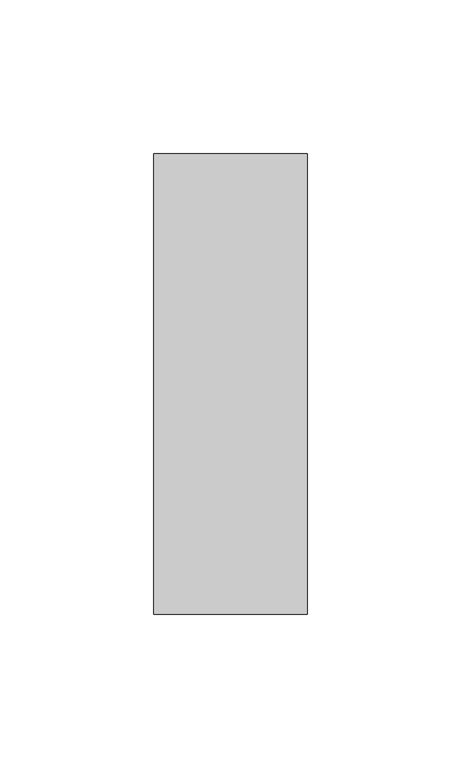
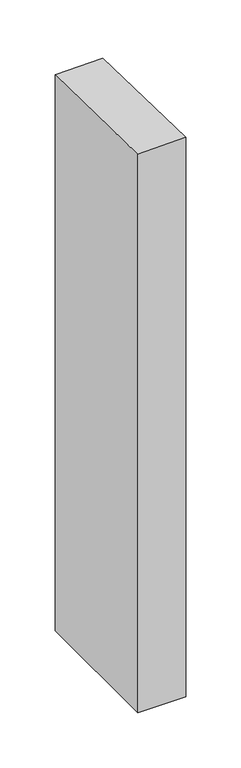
"""IFC4 building model written with IfcOpenShell, lengths in millimetres: member geometry, Прямоугольный импост : 50 x 150 мм."""

import ifcopenshell
import ifcopenshell.guid

model = None  # the IFC model being written
_history = None  # IfcOwnerHistory: only IFC2X3 demands one
_inside = {}  # id of a spatial element -> (the spatial element, [elements in it])
_under = {}  # id of a project, library or spatial element -> (it, [spatial elements below it])
_declared = {}  # id of a project -> (the project, [libraries it declares])
_typed = {}  # id of a type object -> (the type object, [elements of that type])
_made_of = {}  # id of a material, layer set ... -> (it, [elements and type objects made of it])


def new_model(schema):
    """Start an empty IFC model of exactly this schema.

    Asked for "IFC4X3", IfcOpenShell would pick the latest addendum, in which some entities
    have other attributes; the version numbers below select the first issue.
    IFC2X3 requires an IfcOwnerHistory on every rooted entity: one is made here for all.
    """
    global model, _history
    if schema == "IFC4X3":
        model = ifcopenshell.file(schema_version=(4, 3, 0, 0))
    else:
        model = ifcopenshell.file(schema=schema)
    _inside.clear()
    _under.clear()
    _declared.clear()
    _typed.clear()
    _made_of.clear()
    _history = None
    if model.schema == "IFC2X3":
        org = make("IfcOrganization", Name="unknown")
        user = make(
            "IfcPersonAndOrganization",
            ThePerson=make("IfcPerson", FamilyName="unknown"),
            TheOrganization=org,
        )
        app = make(
            "IfcApplication",
            ApplicationDeveloper=org,
            Version="unknown",
            ApplicationFullName="unknown",
            ApplicationIdentifier="unknown",
        )
        _history = make(
            "IfcOwnerHistory",
            OwningUser=user,
            OwningApplication=app,
            ChangeAction="ADDED",
            CreationDate=0,
        )
    return model


def make(cls, **values):
    """One entity of the class cls with the attributes given. An attribute that is None is left unset."""
    return model.create_entity(
        cls, **{name: value for name, value in values.items() if value is not None}
    )


def rooted(cls, **values):
    """An entity with a GlobalId (a new one), such as an element, a storey or a relation."""
    return make(cls, GlobalId=ifcopenshell.guid.new(), OwnerHistory=_history, **values)


def si_unit(unit_type, name, prefix=None):
    """IfcSIUnit, for example si_unit("LENGTHUNIT", "METRE", prefix="MILLI")."""
    return make("IfcSIUnit", UnitType=unit_type, Prefix=prefix, Name=name)


def assignment(units):
    """IfcUnitAssignment: the units of a project."""
    return None if units is None else make("IfcUnitAssignment", Units=units)


def point(xyz):
    """IfcCartesianPoint."""
    return None if xyz is None else make("IfcCartesianPoint", Coordinates=xyz)


def direction(xyz):
    """IfcDirection."""
    return None if xyz is None else make("IfcDirection", DirectionRatios=xyz)


def frame(location, z_axis=None, x_axis=None):
    """IfcAxis2Placement3D, a coordinate frame: its origin and axes. An axis left out is left unset."""
    return make(
        "IfcAxis2Placement3D",
        Location=point(location),
        Axis=direction(z_axis),
        RefDirection=direction(x_axis),
    )


def origin():
    """The frame at (0, 0, 0) with its axes left unset."""
    return frame((0.0, 0.0, 0.0))


def place(relative_to, where):
    """IfcLocalPlacement: puts the frame where relative to a parent placement (None: the world)."""
    return make(
        "IfcLocalPlacement", PlacementRelTo=relative_to, RelativePlacement=where
    )


def context(
    kind, dimensions, precision=None, world=None, true_north=None, identifier=None
):
    """IfcGeometricRepresentationContext, for example the 3D "Model" context."""
    return make(
        "IfcGeometricRepresentationContext",
        ContextIdentifier=identifier,
        ContextType=kind,
        CoordinateSpaceDimension=dimensions,
        Precision=precision,
        WorldCoordinateSystem=world,
        TrueNorth=true_north,
    )


def project(units=None, contexts=None):
    """IfcProject with its units and contexts."""
    return rooted(
        "IfcProject",
        Name="project",
        RepresentationContexts=contexts,
        UnitsInContext=assignment(units),
    )


def spatial(cls, under=None, at=None, **own):
    """A site, building, storey or space (cls), placed at a placement, below another one or the project."""
    s = rooted(cls, ObjectPlacement=at, **own)
    if under is not None:
        _under.setdefault(under.id(), (under, []))[1].append(s)
    return s


def faces_of(points, faces, orient=None, outer=None):
    """IfcFace entities. A face is a list of loops; a loop is a list of indices into points, from 0.

    orient and outer hold one flag for each loop. By default every Orientation is true, the
    first loop of a face is its IfcFaceOuterBound and the others are IfcFaceBound.
    """
    made = []
    for i, loops in enumerate(faces):
        bounds = []
        for j, loop in enumerate(loops):
            is_outer = j == 0 if outer is None else outer[i][j]
            bounds.append(
                make(
                    "IfcFaceOuterBound" if is_outer else "IfcFaceBound",
                    Bound=make("IfcPolyLoop", Polygon=[points[k] for k in loop]),
                    Orientation=True if orient is None else orient[i][j],
                )
            )
        made.append(make("IfcFace", Bounds=bounds))
    return made


def faceted_brep(points, faces, orient=None, outer=None, voids=None):
    """IfcFacetedBrep: a solid bounded by flat faces; with voids (closed shells), ...WithVoids."""
    shared = [point(p) for p in points]
    hull = make("IfcClosedShell", CfsFaces=faces_of(shared, faces, orient, outer))
    if voids is None:
        return make("IfcFacetedBrep", Outer=hull)
    return make(
        "IfcFacetedBrepWithVoids",
        Outer=hull,
        Voids=[
            make(cls, CfsFaces=faces_of(shared, fs, o, b)) for cls, fs, o, b in voids
        ],
    )


def shape(context_of_items, identifier, shape_type, items):
    """IfcShapeRepresentation: the items that make up one representation, for example the "Body"."""
    return make(
        "IfcShapeRepresentation",
        ContextOfItems=context_of_items,
        RepresentationIdentifier=identifier,
        RepresentationType=shape_type,
        Items=items,
    )


def source(mapping_origin, context_of_items, identifier, shape_type, items):
    """IfcRepresentationMap: a shape defined once, which mapped items show again and again."""
    return make(
        "IfcRepresentationMap",
        MappingOrigin=mapping_origin,
        MappedRepresentation=shape(context_of_items, identifier, shape_type, items),
    )


def transform(
    local_origin,
    x_axis=None,
    y_axis=None,
    z_axis=None,
    scale=None,
    scale2=None,
    scale3=None,
    uniform=True,
):
    """IfcCartesianTransformationOperator3D, or its non-uniform kind. x_axis, y_axis, z_axis: its Axis1, 2, 3."""
    if uniform:
        return make(
            "IfcCartesianTransformationOperator3D",
            Axis1=direction(x_axis),
            Axis2=direction(y_axis),
            LocalOrigin=point(local_origin),
            Scale=scale,
            Axis3=direction(z_axis),
        )
    return make(
        "IfcCartesianTransformationOperator3DnonUniform",
        Axis1=direction(x_axis),
        Axis2=direction(y_axis),
        LocalOrigin=point(local_origin),
        Scale=scale,
        Axis3=direction(z_axis),
        Scale2=scale2,
        Scale3=scale3,
    )


def mapped(mapping_source, mapping_target):
    """IfcMappedItem: shows the shape of a source again, moved by a transform."""
    return make(
        "IfcMappedItem", MappingSource=mapping_source, MappingTarget=mapping_target
    )


def made_of(thing, what):
    """Note that an element or type object is made of a material, layer set ...; save() writes the relation."""
    if what is not None:
        _made_of.setdefault(what.id(), (what, []))[1].append(thing)
    return thing


def element(
    cls,
    number,
    at=None,
    inside=None,
    cuts=None,
    type_object=None,
    material=None,
    context=None,
    identifier="Body",
    shape_type=None,
    held_by="IfcProductDefinitionShape",
    body=None,
    shapes=None,
    **own,
):
    """One element of the class cls, such as IfcWall. Its Tag is "e" and its number.

    at: its placement. inside: the storey or other place that contains it. cuts: it is an
    opening in that element (IfcRelVoidsElement). A single representation is given by context,
    identifier, shape_type and body (its items); several are given by shapes. held_by: the class
    of the entity that holds the representations. save() writes the other relations.
    """
    e = rooted(cls, Tag="e%d" % number, ObjectPlacement=at, **own)
    if body is not None:
        shapes = [shape(context, identifier, shape_type, body)]
    if shapes is not None:
        e.Representation = make(held_by, Representations=shapes)
    if inside is not None:
        _inside.setdefault(inside.id(), (inside, []))[1].append(e)
    if cuts is not None:
        rooted(
            "IfcRelVoidsElement", RelatingBuildingElement=cuts, RelatedOpeningElement=e
        )
    if type_object is not None:
        _typed.setdefault(type_object.id(), (type_object, []))[1].append(e)
    return made_of(e, material)


def aggregate(whole, parts):
    """IfcRelAggregates: a whole, such as a stair, and the parts it consists of."""
    return rooted("IfcRelAggregates", RelatingObject=whole, RelatedObjects=parts)


def save(model, path):
    """Write the relations noted so far, then the file.

    IfcRelAggregates (storeys below a building ...), IfcRelContainedInSpatialStructure (elements
    in a storey), IfcRelDefinesByType, IfcRelAssociatesMaterial and IfcRelDeclares: one each for
    every whole, place, type object, material and project.
    """
    for whole, parts in _under.values():
        aggregate(whole, parts)
    for where, things in _inside.values():
        rooted(
            "IfcRelContainedInSpatialStructure",
            RelatedElements=things,
            RelatingStructure=where,
        )
    for kind, things in _typed.values():
        rooted("IfcRelDefinesByType", RelatedObjects=things, RelatingType=kind)
    for what, things in _made_of.values():
        rooted("IfcRelAssociatesMaterial", RelatedObjects=things, RelatingMaterial=what)
    for by, libraries in _declared.values():
        rooted("IfcRelDeclares", RelatingContext=by, RelatedDefinitions=libraries)
    model.write(path)


def member_f10ff905(model_context):
    return source(origin(), model_context, "Body", "Brep", [
        faceted_brep([(25.0, 75.0, -616.6262022), (25.0, -75.0, -616.6262022), (-25.0, -75.0, -616.6262022), (-25.0, 75.0, -616.6262022), (-25.0, 75.0, -2.20014), (25.0, 75.0, -1.0580008), (-25.0, -75.0, 1.0580008), (25.0, -75.0, 2.20014)], [[[0, 1, 2, 3]], [[4, 5, 0, 3]], [[6, 4, 3, 2]], [[7, 6, 2, 1]], [[5, 7, 1, 0]], [[5, 4, 6, 7]]]),
    ])


if __name__ == "__main__":
    model = new_model("IFC4")
    model_context = context("Model", 3, world=origin())
    ifc_project = project(units=[si_unit("LENGTHUNIT", "METRE", prefix="MILLI")], contexts=[model_context])
    site = spatial("IfcSite", under=ifc_project)
    building = spatial("IfcBuilding", under=site)
    placement = place(None, origin())
    member_shape = member_f10ff905(model_context)
    element("IfcMember", 1, ObjectType="Прямоугольный импост : 50 x 150 мм", at=placement, inside=building, context=model_context, shape_type="MappedRepresentation", body=[
        mapped(member_shape, transform((0.0, 0.0, 0.0), x_axis=(1.0, 0.0, 0.0), y_axis=(0.0, 1.0, 0.0), z_axis=(0.0, 0.0, 1.0))),
    ])
    save(model, "model.ifc")
